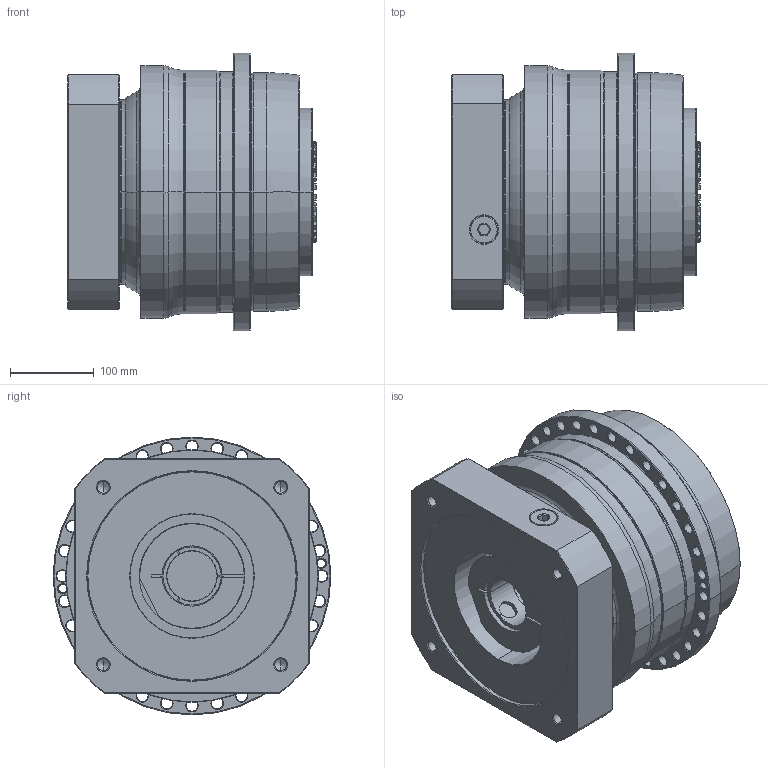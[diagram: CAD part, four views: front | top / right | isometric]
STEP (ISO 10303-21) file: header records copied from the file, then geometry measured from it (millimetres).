
FILE_DESCRIPTION((''),'2;1');
FILE_NAME('APC285_1ST_60-P0409D00201_ASM','2018-06-12T',('d01226'),(''),'PRO/ENGINEER BY PARAMETRIC TECHNOLOGY CORPORATION, 2008410','PRO/ENGINEER BY PARAMETRIC TECHNOLOGY CORPORATION, 2008410','');
FILE_SCHEMA(('CONFIG_CONTROL_DESIGN'));
Length unit declared in the file: millimetre
Products named in the file (9): P0278801003; P03598G0103; P1318810501; P0503D00016; P0912805001; P1211800001; P0409D00201; 21711426021; APC285_1ST_60-P0409D00201_ASM
Assembly tree (8 placements, depth 2):
  APC285_1ST_60-P0409D00201_ASM
    P0278801003
    P03598G0103
    P1318810501
    P0503D00016
    P0912805001
    P1211800001
    P0409D00201
    21711426021
Bounding box: 297.1 x 332 x 332 mm (x, y, z)
Volume: 18764827.8 mm3; surface area: 1204563.9 mm2
Topology: 9 solids, 22 shells, 820 faces, 2005 edges, 1227 vertices
Faces by surface type: cone 290, cylinder 234, plane 148, torus 134, bspline 14
Entity records: 29581 total; most frequent: CARTESIAN_POINT 9797, DIRECTION 4425, ORIENTED_EDGE 3924, EDGE_CURVE 1987, AXIS2_PLACEMENT_3D 1942, VERTEX_POINT 1227, CIRCLE 1107, EDGE_LOOP 944
